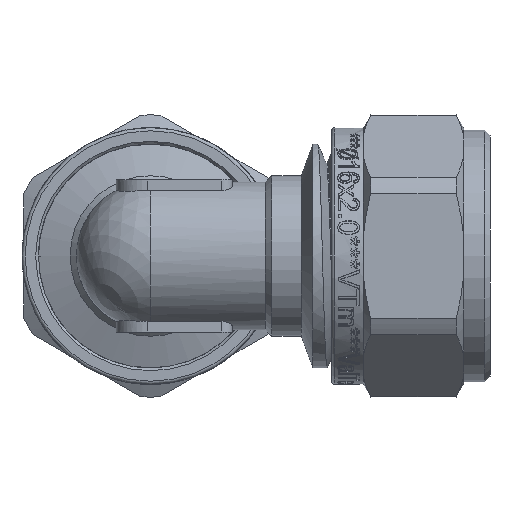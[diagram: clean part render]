
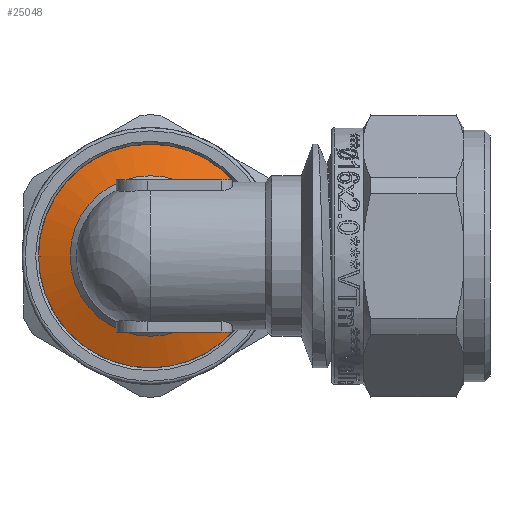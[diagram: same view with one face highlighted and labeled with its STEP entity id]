
A CAD part, front view. The second image highlights one B-rep face of the part: STEP entity #25048.
In plain terms, the highlighted conical face has half-angle 70 degrees and reference radius 9.1 mm.
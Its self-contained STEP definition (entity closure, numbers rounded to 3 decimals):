
#83=CONICAL_SURFACE('',#26435,9.1,1.222);
#2161=FACE_OUTER_BOUND('',#3608,.T.);
#3608=EDGE_LOOP('',(#20537,#20538,#20539,#20540,#20541));
#4645=CIRCLE('',#26433,7.6);
#4646=CIRCLE('',#26434,7.6);
#4647=CIRCLE('',#26436,10.6);
#7405=LINE('',#44911,#9121);
#9121=VECTOR('',#29493,9.1);
#10888=VERTEX_POINT('',#43086);
#11290=VERTEX_POINT('',#44905);
#11291=VERTEX_POINT('',#44907);
#14591=EDGE_CURVE('',#11290,#11291,#4645,.T.);
#14592=EDGE_CURVE('',#11291,#11290,#4646,.T.);
#14593=EDGE_CURVE('',#11290,#10888,#7405,.T.);
#14594=EDGE_CURVE('',#10888,#10888,#4647,.T.);
#20537=ORIENTED_EDGE('',*,*,#14592,.F.);
#20538=ORIENTED_EDGE('',*,*,#14591,.F.);
#20539=ORIENTED_EDGE('',*,*,#14593,.T.);
#20540=ORIENTED_EDGE('',*,*,#14594,.T.);
#20541=ORIENTED_EDGE('',*,*,#14593,.F.);
#25048=ADVANCED_FACE('',(#2161),#83,.T.);
#26433=AXIS2_PLACEMENT_3D('',#44908,#29487,#29488);
#26434=AXIS2_PLACEMENT_3D('',#44909,#29489,#29490);
#26435=AXIS2_PLACEMENT_3D('',#44910,#29491,#29492);
#26436=AXIS2_PLACEMENT_3D('',#44912,#29494,#29495);
#29487=DIRECTION('center_axis',(0.,-1.,0.));
#29488=DIRECTION('ref_axis',(0.,0.,1.));
#29489=DIRECTION('center_axis',(0.,-1.,0.));
#29490=DIRECTION('ref_axis',(0.,0.,1.));
#29491=DIRECTION('center_axis',(0.,1.,0.));
#29492=DIRECTION('ref_axis',(1.,0.,0.));
#29493=DIRECTION('',(-0.94,0.342,0.));
#29494=DIRECTION('center_axis',(0.,-1.,0.));
#29495=DIRECTION('ref_axis',(0.,0.,1.));
#43086=CARTESIAN_POINT('',(-10.6,15.4,0.));
#44905=CARTESIAN_POINT('',(-7.6,14.308,0.));
#44907=CARTESIAN_POINT('',(7.6,14.308,0.));
#44908=CARTESIAN_POINT('Origin',(0.,14.308,
0.));
#44909=CARTESIAN_POINT('Origin',(0.,14.308,
0.));
#44910=CARTESIAN_POINT('Origin',(0.,14.854,
0.));
#44911=CARTESIAN_POINT('',(-9.1,14.854,0.));
#44912=CARTESIAN_POINT('Origin',(0.,15.4,0.));
